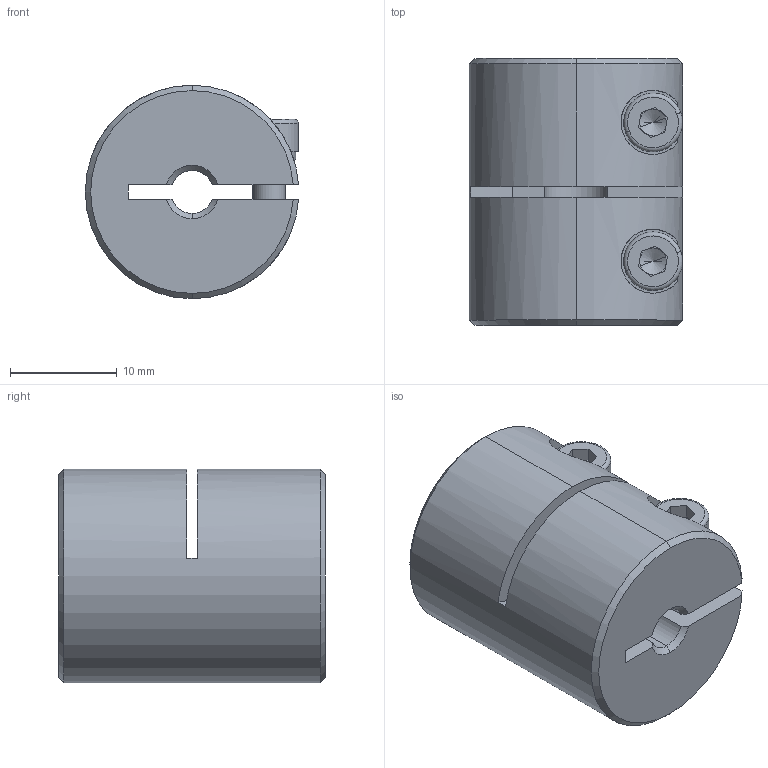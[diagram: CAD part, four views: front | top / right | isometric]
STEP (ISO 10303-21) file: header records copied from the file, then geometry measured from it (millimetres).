
FILE_DESCRIPTION (( 'STEP AP203' ), '1' );
FILE_NAME ('LL-B-D20L25-4-6.STEP', '2021-11-05T03:26:03', ( '' ), ( '' ), 'SwSTEP 2.0', 'SolidWorks 2018', '' );
FILE_SCHEMA (( 'CONFIG_CONTROL_DESIGN' ));
Length unit declared in the file: millimetre
Products named in the file (1): LL-B-D20L25-4-6
Bounding box: 19.98 x 25 x 20 mm (x, y, z)
Volume: 6725.6 mm3; surface area: 3621.1 mm2
Topology: 1 solids, 1 shells, 116 faces, 300 edges, 188 vertices
Faces by surface type: plane 53, cylinder 43, cone 16, torus 4
Entity records: 3789 total; most frequent: CARTESIAN_POINT 835, DIRECTION 630, ORIENTED_EDGE 592, EDGE_CURVE 296, AXIS2_PLACEMENT_3D 243, VERTEX_POINT 188, LINE 144, VECTOR 144
